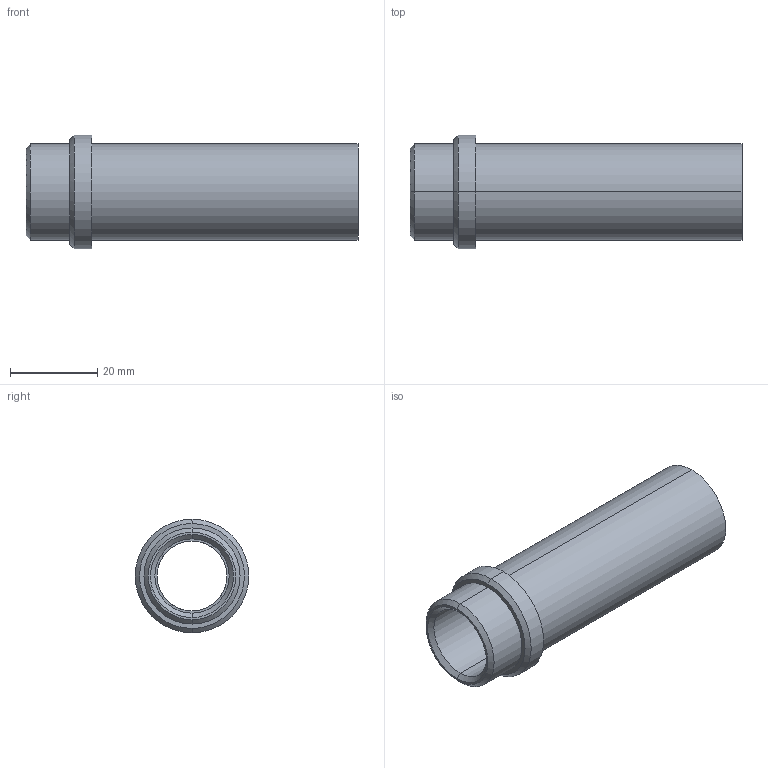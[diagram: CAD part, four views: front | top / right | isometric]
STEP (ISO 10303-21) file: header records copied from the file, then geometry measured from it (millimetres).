
FILE_DESCRIPTION(('CATIA V5 STEP Exchange'),'2;1');
FILE_NAME('C:\Users\Utente\Desktop\IO LAVORO\3D X SITO CF\X SITO\PLASTICA\358\358-16x76.stp','2021-04-08T13:53:15+00:00',('none'),('none'),'CATIA Version 5 Release 20 GA (IN-10)','CATIA V5 STEP AP203','none');
FILE_SCHEMA(('CONFIG_CONTROL_DESIGN'));
Length unit declared in the file: millimetre
Products named in the file (1): 358-16x76
Bounding box: 76 x 26 x 26 mm (x, y, z)
Volume: 13076.3 mm3; surface area: 9771.4 mm2
Topology: 1 solids, 1 shells, 23 faces, 74 edges, 56 vertices
Faces by surface type: cylinder 10, cone 6, plane 5, torus 2
Entity records: 1066 total; most frequent: CARTESIAN_POINT 378, ORIENTED_EDGE 148, DIRECTION 104, EDGE_CURVE 74, AXIS2_PLACEMENT_3D 66, VERTEX_POINT 56, CIRCLE 42, EDGE_LOOP 28
